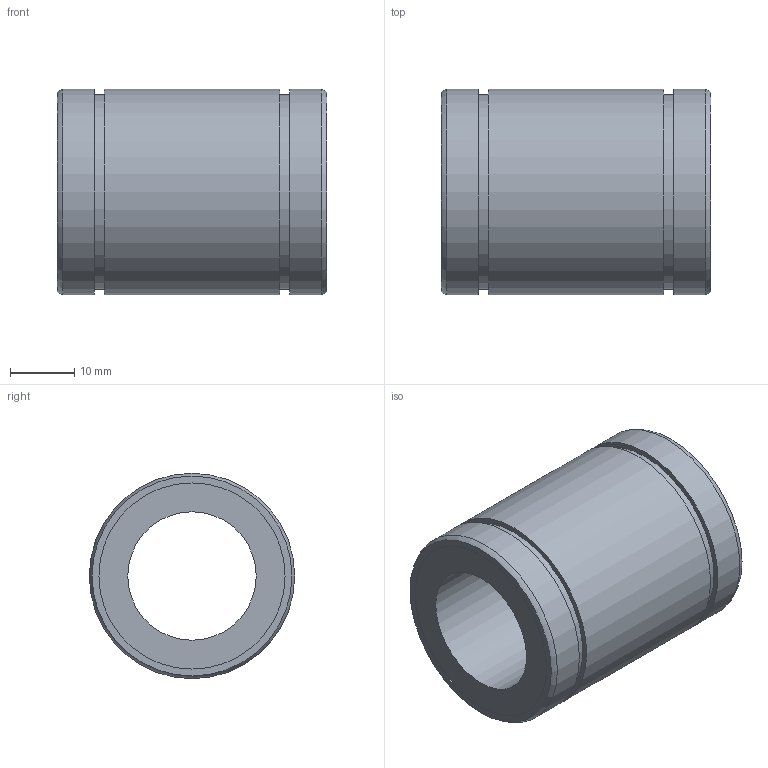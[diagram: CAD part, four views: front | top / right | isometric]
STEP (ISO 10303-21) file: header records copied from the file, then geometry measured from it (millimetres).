
FILE_DESCRIPTION((''),'2;1');
FILE_NAME('D:\製品 (図面)\カタログ用3D\リニアベアリング関連\STEP形式\L\L20.stp','2010-06-02T17:32:40',('Tsuchiya'),(''),'Autodesk Inventor 10','Autodesk Inventor 10','');
FILE_SCHEMA(('AUTOMOTIVE_DESIGN { 1 0 10303 214 1 1 1 1 }'));
Length unit declared in the file: millimetre
Products named in the file (1): L20
Bounding box: 42 x 32 x 32 mm (x, y, z)
Volume: 20214.5 mm3; surface area: 8095.2 mm2
Topology: 1 solids, 1 shells, 18 faces, 28 edges, 18 vertices
Faces by surface type: cylinder 8, plane 8, torus 2
Full cylindrical faces by diameter (mm): 20 x1, 29 x2, 30.3 x2, 32 x3
Entity records: 391 total; most frequent: DIRECTION 74, CARTESIAN_POINT 55, AXIS2_PLACEMENT_3D 37, ORIENTED_EDGE 36, EDGE_LOOP 36, VERTEX_POINT 18, CIRCLE 18, EDGE_CURVE 18
